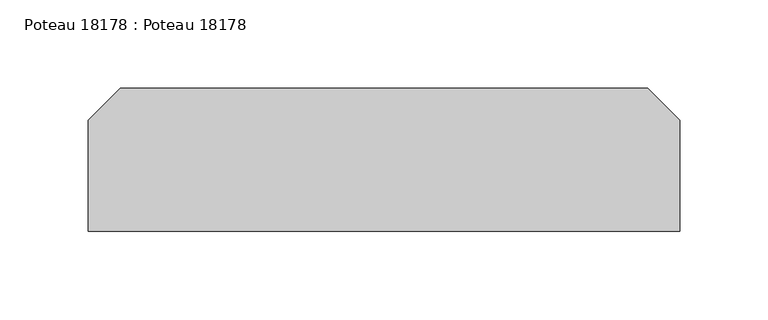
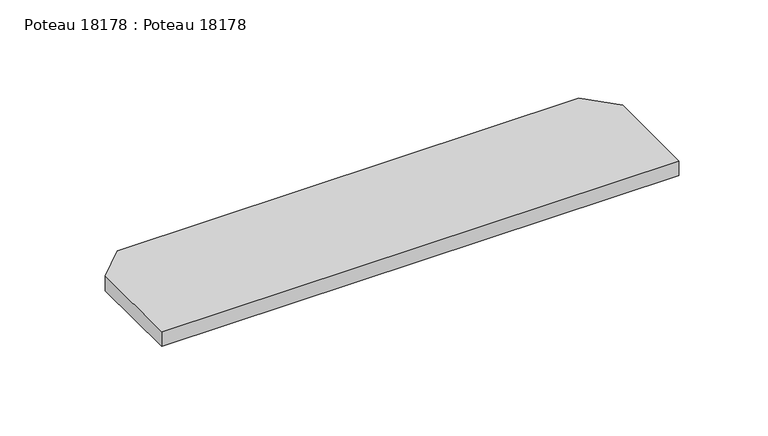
"""IFC4 building model written with IfcOpenShell, lengths in millimetres: beam geometry, Poteau 18178 : Poteau 18178."""

from ifc_helpers import new_model, si_unit, frame, origin, place, context, project, spatial, polyline, outline, extrude, source, transform, mapped, element, save


def poteau_18178_poteau_18178_8c32ee56(model_context):
    return source(origin(), model_context, "Body", "SweptSolid", [
        extrude(outline(polyline([(-167.3000001, -39837.0), (-149.3000001, -39819.0), (149.2999999, -39819.0), (167.2999999, -39837.0), (167.2999999, -39900.0), (-167.3000001, -39900.0), (-167.3000001, -39837.0)])), frame((0.0, 0.0, 7545.5669486), z_axis=(0.0, 0.0, 1.0), x_axis=(1.0, 0.0, 0.0)), (0.0, 0.0, 1.0), 10.0),
    ])


if __name__ == "__main__":
    model = new_model("IFC4")
    model_context = context("Model", 3, world=origin())
    ifc_project = project(units=[si_unit("LENGTHUNIT", "METRE", prefix="MILLI")], contexts=[model_context])
    site = spatial("IfcSite", under=ifc_project)
    building = spatial("IfcBuilding", under=site)
    placement = place(None, origin())
    poteau_18178_poteau_18178_shape = poteau_18178_poteau_18178_8c32ee56(model_context)
    element("IfcBeam", 1, ObjectType="Poteau 18178 : Poteau 18178", at=placement, inside=building, context=model_context, shape_type="MappedRepresentation", body=[
        mapped(poteau_18178_poteau_18178_shape, transform((0.0, 0.0, 0.0), x_axis=(1.0, 0.0, 0.0), y_axis=(0.0, 1.0, 0.0), z_axis=(0.0, 0.0, 1.0))),
    ])
    save(model, "model.ifc")
